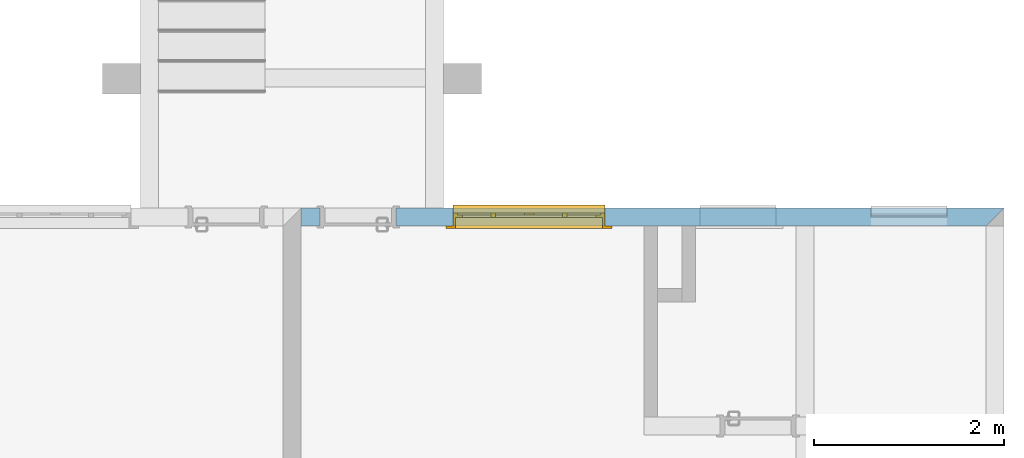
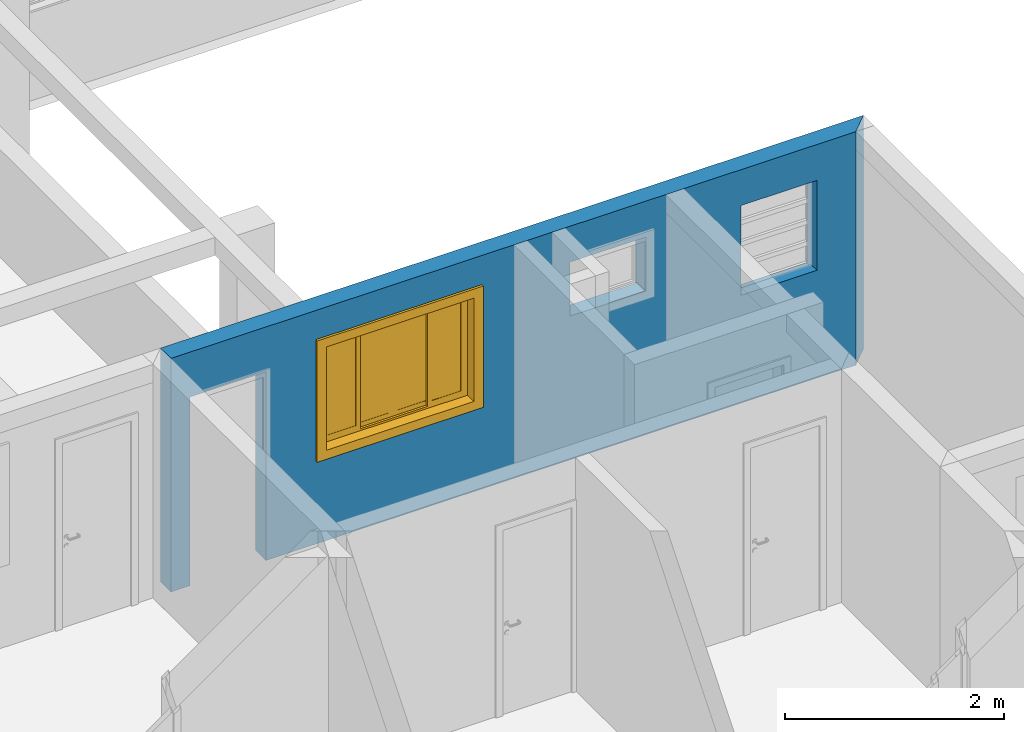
# One storey, part 21 of 47: 1 wall, 1 window, 4 openings.
"""IFC2X3 building model written with IfcOpenShell, lengths in millimetres."""

from ifc_helpers import new_model, entity, si_unit, converted_unit, derived_unit, money_unit, direction, frame, origin_with_axes, origin_2d_with_axis, place, context, subcontext, project, spatial, polyline, rectangle, outline, extrude, open_shell, faceted_brep, surface_model, source, transform, mapped, material, layer, layer_set, layer_usage, type_object, element, fill, save


model = new_model("IFC2X3")

# Units and contexts
model_context = context("Model", 3, precision=0.01, world=origin_with_axes(), true_north=direction((0.0, 1.0)))
body_context = subcontext(model_context, "Body", "Model", "MODEL_VIEW")
ifc_project = project(units=[si_unit("LENGTHUNIT", "METRE", prefix="MILLI"), si_unit("AREAUNIT", "SQUARE_METRE"), si_unit("VOLUMEUNIT", "CUBIC_METRE"), converted_unit("PLANEANGLEUNIT", "DEGREE", entity("IfcPlaneAngleMeasure", 0.0174532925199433), si_unit("PLANEANGLEUNIT", "RADIAN"), dimensions=[0, 0, 0, 0, 0, 0, 0]), money_unit("USD"), converted_unit("TIMEUNIT", "Year", entity("IfcTimeMeasure", 31557600.0), si_unit("TIMEUNIT", "SECOND"), dimensions=[0, 0, 1, 0, 0, 0, 0]), si_unit("MASSUNIT", "GRAM", prefix="KILO"), si_unit("THERMODYNAMICTEMPERATUREUNIT", "DEGREE_CELSIUS"), si_unit("LUMINOUSINTENSITYUNIT", "LUMEN"), si_unit("ENERGYUNIT", "JOULE", prefix="MEGA"), derived_unit("THERMALCONDUCTANCEUNIT", [(si_unit("POWERUNIT", "WATT"), 1), (si_unit("LENGTHUNIT", "METRE"), -1), (si_unit("THERMODYNAMICTEMPERATUREUNIT", "KELVIN"), -1)]), derived_unit("SPECIFICHEATCAPACITYUNIT", [(si_unit("ENERGYUNIT", "JOULE"), 1), (si_unit("MASSUNIT", "GRAM", prefix="KILO"), -1), (si_unit("THERMODYNAMICTEMPERATUREUNIT", "KELVIN"), -1)]), derived_unit("MASSDENSITYUNIT", [(si_unit("MASSUNIT", "GRAM", prefix="KILO"), 1), (si_unit("VOLUMEUNIT", "CUBIC_METRE"), -1)])], contexts=[model_context])

# Site, building, storey
site_placement = place(None, origin_with_axes())
site = spatial("IfcSite", under=ifc_project, at=site_placement, Name="Local", CompositionType="ELEMENT")
building_placement = place(site_placement, origin_with_axes())
building = spatial("IfcBuilding", under=site, at=building_placement, Name="Construção", CompositionType="ELEMENT")
storey_placement = place(building_placement, origin_with_axes())
storey = spatial("IfcBuildingStorey", under=building, at=storey_placement, Name="Pavimento Tipo", CompositionType="ELEMENT", Elevation=0.0)

# Wall, openings, window
ifc_material = material(Name="Concreto - Estrutural")
ifc_layer = layer(ifc_material, 190.0, ventilated="UNKNOWN")
ifc_layer_set = layer_set([ifc_layer], Name="Concreto - Estrutural 190")
ifc_layer_usage = layer_usage(ifc_layer_set, "AXIS2", "POSITIVE", -190.0)
wall_type = type_object("IfcWallType", Name="Concreto - Estrutural 190", PredefinedType="NOTDEFINED")
wall_placement = place(storey_placement, frame((1042.56699750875, 5186.981417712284, 0.0), z_axis=(0.0, 0.0, 1.0), x_axis=(1.0, 0.0, 0.0)))
wall = element("IfcWallStandardCase", 1, at=wall_placement, inside=storey, type_object=wall_type, material=ifc_layer_usage, Name="Apartamento 4 - Parede-003", context=body_context, shape_type="SweptSolid", body=[
    extrude(outline(polyline([(0.0, -190.0000000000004), (7209.999999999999, -190.0000000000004), (7399.999999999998, 0.0), (0.0, 0.0), (0.0, -190.0000000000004)])), origin_with_axes(), (0.0, 0.0, 1.0), 2600.0),
])
opening_1_placement = place(wall_placement, frame((2400.0, 0.0, 1000.0), z_axis=(0.0, 0.0, 1.0), x_axis=(1.0, 0.0, 0.0)))
opening_1 = element("IfcOpeningElement", 2, at=opening_1_placement, cuts=wall, Name="Apartamento 4 - J01", context=body_context, shape_type="SweptSolid", body=[
    extrude(rectangle(XDim=1600.0, YDim=1200.0, at=origin_2d_with_axis()), frame((0.0, -49.99999999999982, 600.0000000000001), z_axis=(0.0, 1.0, 0.0), x_axis=(1.0, 0.0, 0.0)), (0.0, 0.0, -1.0), 330.0),
    extrude(rectangle(XDim=1600.0, YDim=1200.0, at=origin_2d_with_axis()), frame((0.0, -49.99999999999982, 600.0000000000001), z_axis=(0.0, -1.0, 0.0), x_axis=(1.0, 0.0, 0.0)), (0.0, 0.0, -1.0), 240.0),
    extrude(rectangle(XDim=1750.0, YDim=1350.0, at=origin_2d_with_axis()), frame((0.0, -189.9999999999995, 600.0000000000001), z_axis=(0.0, 1.0, 0.0), x_axis=(1.0, 0.0, 0.0)), (0.0, 0.0, -1.0), 240.0),
])
opening_2_placement = place(wall_placement, frame((6399.999999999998, 0.0, 1200.0), z_axis=(0.0, 0.0, 1.0), x_axis=(1.0, 0.0, 0.0)))
element("IfcOpeningElement", 3, at=opening_2_placement, cuts=wall, Name="Apartamento 4 - J03", context=body_context, shape_type="SweptSolid", body=[
    extrude(rectangle(XDim=800.0000000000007, YDim=1000.0, at=origin_2d_with_axis()), frame((0.0, -49.99999999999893, 500.0), z_axis=(0.0, -1.0, 0.0), x_axis=(-1.0, 0.0, 0.0)), (0.0, 0.0, 1.0), 330.0),
    extrude(rectangle(XDim=800.0000000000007, YDim=1000.0, at=origin_2d_with_axis()), frame((0.0, -49.99999999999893, 500.0), z_axis=(0.0, 1.0, 0.0), x_axis=(-1.0, 0.0, 0.0)), (0.0, 0.0, 1.0), 240.0),
    extrude(rectangle(XDim=800.0000000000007, YDim=30.00000000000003, at=origin_2d_with_axis()), frame((0.0, -84.99999999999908, -14.9999999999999), z_axis=(0.0, 1.0, 0.0), x_axis=(-1.0, 0.0, 0.0)), (0.0, 0.0, 1.0), 225.0),
])
opening_3_placement = place(wall_placement, frame((600.0000000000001, 0.0, 0.0), z_axis=(0.0, 0.0, 1.0), x_axis=(1.0, 0.0, 0.0)))
element("IfcOpeningElement", 4, at=opening_3_placement, cuts=wall, Name="Apartamento 4 - P01", context=body_context, shape_type="SweptSolid", body=[
    extrude(rectangle(XDim=800.0, YDim=2100.0, at=origin_2d_with_axis()), frame((0.0, -190.0000000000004, 1050.0), z_axis=(0.0, 1.0, 0.0), x_axis=(-1.0, 0.0, 0.0)), (0.0, 0.0, 1.0), 570.0000000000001),
    extrude(rectangle(XDim=870.0000000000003, YDim=2135.0, at=origin_2d_with_axis()), frame((0.0, -190.0000000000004, 1067.5), z_axis=(0.0, 1.0, 0.0), x_axis=(-1.0, 0.0, 0.0)), (0.0, 0.0, -1.0), 190.0),
    extrude(rectangle(XDim=870.0000000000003, YDim=2135.0, at=origin_2d_with_axis()), frame((0.0, 0.0, 1067.5), z_axis=(0.0, -1.0, 0.0), x_axis=(-1.0, 0.0, 0.0)), (0.0, 0.0, -1.0), 190.0),
])
opening_4_placement = place(wall_placement, frame((4600.0, 0.0, 1600.0), z_axis=(0.0, 0.0, 1.0), x_axis=(1.0, 0.0, 0.0)))
element("IfcOpeningElement", 5, at=opening_4_placement, cuts=wall, Name="Apartamento 4 - J02", context=body_context, shape_type="SweptSolid", body=[
    extrude(rectangle(XDim=800.0000000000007, YDim=600.0000000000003, at=origin_2d_with_axis()), frame((0.0, -190.0000000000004, 300.0000000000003), z_axis=(0.0, -1.0, 0.0), x_axis=(-1.0, 0.0, 0.0)), (0.0, 0.0, -1.0), 570.0000000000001),
    extrude(rectangle(XDim=800.0000000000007, YDim=30.00000000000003, at=origin_2d_with_axis()), frame((0.0, -34.99999999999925, -14.9999999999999), z_axis=(0.0, 1.0, 0.0), x_axis=(-1.0, 0.0, 0.0)), (0.0, 0.0, 1.0), 225.0),
    extrude(rectangle(XDim=949.9999999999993, YDim=750.0, at=origin_2d_with_axis()), frame((0.0, -189.9999999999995, 300.0000000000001), z_axis=(0.0, -1.0, 0.0), x_axis=(-1.0, 0.0, 0.0)), (0.0, 0.0, 1.0), 190.0),
])
window_style = type_object("IfcWindowStyle", Name="Janela de Correr 4-Folhas 27", ConstructionType="NOTDEFINED", OperationType="USERDEFINED", ParameterTakesPrecedence=False, Sizeable=False)
shared_shape = source(origin_with_axes(), body_context, "Body", "SurfaceModel", [
    faceted_brep([(-800.0, 0.0, 5.0), (-800.0, 0.0, 30.0), (-800.0, 50.0, 27.37961103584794), (-800.0, 50.0, 5.000000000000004), (800.0, 0.0, 5.0), (800.0, 0.0, 30.0), (800.0, 50.0, 27.37961103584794), (800.0, 80.0, 25.8073776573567), (-800.0, 80.0, 25.8073776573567), (-800.0, 80.0, 5.000000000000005), (800.0, 80.0, 5.000000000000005), (800.0, 50.0, 5.000000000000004)], [[[0, 1, 2, 3]], [[4, 5, 1, 0]], [[1, 5, 6, 7, 8, 2]], [[3, 2, 8, 9]], [[0, 3, 9, 10, 11, 4]], [[11, 6, 5, 4]], [[10, 7, 6, 11]], [[9, 8, 7, 10]]]),
    faceted_brep([(-800.0, 0.0, 0.0), (-800.0, 0.0, 5.0), (-800.0, 50.0, 5.0), (-800.0, 50.0, 0.0), (800.0, 0.0, 0.0), (800.0, 0.0, 5.0), (800.0, 50.0, 5.0), (800.0, 50.0, 0.0)], [[[0, 1, 2, 3]], [[4, 5, 1, 0]], [[1, 5, 6, 2]], [[3, 2, 6, 7]], [[0, 3, 7, 4]], [[7, 6, 5, 4]]]),
    faceted_brep([(-800.0, -50.0, 0.0), (800.0, -50.0, 0.0), (800.0, -140.0, 0.0), (-800.0, -140.0, 0.0), (-800.0, -50.00000000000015, 1200.0), (800.0, -50.00000000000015, 1200.0), (-775.0, -50.0, 24.99999999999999), (775.0, -50.0, 24.99999999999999), (775.0, -50.00000000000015, 1175.0), (-775.0, -50.00000000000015, 1175.0), (800.0, -140.0000000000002, 1200.0), (-800.0, -140.0000000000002, 1200.0), (-775.0, -140.0, 24.99999999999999), (-775.0, -140.0000000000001, 1175.0), (775.0, -140.0000000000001, 1175.0), (775.0, -140.0, 24.99999999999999)], [[[0, 1, 2, 3]], [[0, 4, 5, 1], [6, 7, 8, 9]], [[1, 5, 10, 2]], [[3, 2, 10, 11], [12, 13, 14, 15]], [[4, 0, 3, 11]], [[5, 4, 11, 10]], [[7, 6, 12, 15]], [[8, 7, 15, 14]], [[9, 8, 14, 13]], [[6, 9, 13, 12]]]),
    faceted_brep([(-875.0, -165.0, -75.00000000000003), (-875.0, -140.0, -75.00000000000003), (-775.0, -140.0, 24.99999999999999), (-775.0, -165.0, 24.99999999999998), (-875.0, -165.0000000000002, 1275.0), (-875.0, -140.0000000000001, 1275.0), (-775.0, -140.0000000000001, 1175.0), (-775.0, -165.0000000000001, 1175.0)], [[[0, 1, 2, 3]], [[4, 5, 1, 0]], [[1, 5, 6, 2]], [[3, 2, 6, 7]], [[0, 3, 7, 4]], [[7, 6, 5, 4]]]),
    faceted_brep([(875.0, -165.0000000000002, 1275.0), (875.0, -140.0000000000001, 1275.0), (775.0, -140.0000000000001, 1175.0), (775.0, -165.0000000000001, 1175.0), (875.0, -165.0, -75.00000000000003), (875.0, -140.0, -75.00000000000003), (775.0, -140.0, 24.99999999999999), (775.0, -165.0, 24.99999999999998)], [[[0, 1, 2, 3]], [[4, 5, 1, 0]], [[1, 5, 6, 2]], [[3, 2, 6, 7]], [[0, 3, 7, 4]], [[7, 6, 5, 4]]]),
    faceted_brep([(875.0, -165.0, -75.00000000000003), (875.0, -140.0, -75.00000000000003), (775.0, -140.0, 24.99999999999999), (775.0, -165.0, 24.99999999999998), (-875.0, -165.0, -75.00000000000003), (-875.0, -140.0, -75.00000000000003), (-775.0, -140.0, 24.99999999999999), (-775.0, -165.0, 24.99999999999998)], [[[0, 1, 2, 3]], [[4, 5, 1, 0]], [[1, 5, 6, 2]], [[3, 2, 6, 7]], [[0, 3, 7, 4]], [[7, 6, 5, 4]]]),
    faceted_brep([(-875.0, -165.0000000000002, 1275.0), (-875.0, -140.0000000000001, 1275.0), (-775.0, -140.0000000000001, 1175.0), (-775.0, -165.0000000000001, 1175.0), (875.0, -165.0000000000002, 1275.0), (875.0, -140.0000000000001, 1275.0), (775.0, -140.0000000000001, 1175.0), (775.0, -165.0000000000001, 1175.0)], [[[0, 1, 2, 3]], [[4, 5, 1, 0]], [[1, 5, 6, 2]], [[3, 2, 6, 7]], [[0, 3, 7, 4]], [[7, 6, 5, 4]]]),
    faceted_brep([(-753.0, -50.00000000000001, 47.0), (-753.0, 0.0, 47.00000000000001), (-753.0, 0.0, 1153.0), (-753.0, -50.00000000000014, 1153.0), (-800.0, -50.00000000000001, 47.0), (-800.0, 0.0, 47.00000000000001), (-800.0, 0.0, 1153.0), (-800.0, -50.00000000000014, 1153.0)], [[[0, 1, 2, 3]], [[4, 5, 1, 0]], [[1, 5, 6, 2]], [[3, 2, 6, 7]], [[0, 3, 7, 4]], [[7, 6, 5, 4]]]),
    faceted_brep([(800.0, -50.00000000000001, 47.0), (800.0, 0.0, 47.00000000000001), (800.0, 0.0, 1153.0), (800.0, -50.00000000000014, 1153.0), (753.0, -50.00000000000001, 47.0), (753.0, 0.0, 47.00000000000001), (753.0, 0.0, 1153.0), (753.0, -50.00000000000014, 1153.0)], [[[0, 1, 2, 3]], [[4, 5, 1, 0]], [[1, 5, 6, 2]], [[3, 2, 6, 7]], [[0, 3, 7, 4]], [[7, 6, 5, 4]]]),
    faceted_brep([(800.0, -50.00000000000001, 47.0), (800.0, 0.0, 47.00000000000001), (753.0, 0.0, 47.00000000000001), (753.0, -50.00000000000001, 47.0), (800.0, -50.0, 0.0), (800.0, 0.0, 0.0), (-800.0, 0.0, 0.0), (-800.0, 0.0, 47.00000000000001), (-753.0, 0.0, 47.00000000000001), (-753.0, -50.00000000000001, 47.0), (-800.0, -50.00000000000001, 47.0), (-800.0, -50.0, 0.0)], [[[0, 1, 2, 3]], [[4, 5, 1, 0]], [[1, 5, 6, 7, 8, 2]], [[3, 2, 8, 9]], [[0, 3, 9, 10, 11, 4]], [[11, 6, 5, 4]], [[10, 7, 6, 11]], [[9, 8, 7, 10]]]),
    faceted_brep([(800.0, -50.00000000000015, 1200.0), (800.0, 0.0, 1200.0), (-800.0, 0.0, 1200.0), (-800.0, -50.00000000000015, 1200.0), (800.0, -50.00000000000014, 1153.0), (800.0, 0.0, 1153.0), (753.0, 0.0, 1153.0), (376.5000000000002, 0.0, 1153.0), (0.0, 0.0, 1153.0), (-376.4999999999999, 0.0, 1153.0), (-753.0, 0.0, 1153.0), (-800.0, 0.0, 1153.0), (-800.0, -50.00000000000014, 1153.0), (-753.0, -50.00000000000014, 1153.0), (-376.4999999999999, -50.00000000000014, 1153.0), (0.0, -50.00000000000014, 1153.0), (376.5000000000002, -50.00000000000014, 1153.0), (753.0, -50.00000000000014, 1153.0)], [[[0, 1, 2, 3]], [[4, 5, 1, 0]], [[1, 5, 6, 7, 8, 9, 10, 11, 2]], [[3, 2, 11, 12]], [[0, 3, 12, 13, 14, 15, 16, 17, 4]], [[17, 6, 5, 4]], [[16, 7, 6, 17]], [[15, 8, 7, 16]], [[14, 9, 8, 15]], [[13, 10, 9, 14]], [[12, 11, 10, 13]]]),
    faceted_brep([(-703.0, -50.00000000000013, 1103.0), (-703.0, -25.00000000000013, 1103.0), (-752.9999999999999, -25.00000000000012, 1103.0), (-752.9999999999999, -50.00000000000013, 1103.0), (-703.0, -50.00000000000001, 97.0), (-703.0, -25.0, 97.0), (-752.9999999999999, -25.0, 97.0), (-752.9999999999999, -50.0, 97.0)], [[[0, 1, 2, 3]], [[4, 5, 1, 0]], [[1, 5, 6, 2]], [[3, 2, 6, 7]], [[0, 3, 7, 4]], [[7, 6, 5, 4]]]),
    faceted_brep([(-401.4999999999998, -50.00000000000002, 97.0), (-401.4999999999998, -25.00000000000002, 97.0), (-351.4999999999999, -25.00000000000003, 97.0), (-351.4999999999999, -50.00000000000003, 97.0), (-401.4999999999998, -50.00000000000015, 1103.0), (-401.4999999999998, -25.00000000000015, 1103.0), (-351.4999999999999, -25.00000000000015, 1103.0), (-351.4999999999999, -50.00000000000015, 1103.0)], [[[0, 1, 2, 3]], [[4, 5, 1, 0]], [[1, 5, 6, 2]], [[3, 2, 6, 7]], [[0, 3, 7, 4]], [[7, 6, 5, 4]]]),
    faceted_brep([(-351.4999999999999, -50.00000000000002, 47.0), (-351.4999999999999, -25.00000000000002, 47.0), (-351.4999999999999, -25.00000000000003, 97.0), (-351.4999999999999, -50.00000000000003, 97.0), (-752.9999999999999, -49.99999999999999, 47.0), (-752.9999999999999, -24.99999999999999, 47.0), (-752.9999999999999, -25.0, 97.0), (-703.0, -25.0, 97.0), (-401.4999999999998, -25.00000000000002, 97.0), (-401.4999999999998, -50.00000000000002, 97.0), (-703.0, -50.00000000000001, 97.0), (-752.9999999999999, -50.0, 97.0)], [[[0, 1, 2, 3]], [[4, 5, 1, 0]], [[1, 5, 6, 7, 8, 2]], [[3, 2, 8, 9]], [[0, 3, 9, 10, 11, 4]], [[11, 6, 5, 4]], [[10, 7, 6, 11]], [[9, 8, 7, 10]]]),
    faceted_brep([(-752.9999999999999, -50.00000000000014, 1153.0), (-752.9999999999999, -25.00000000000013, 1153.0), (-752.9999999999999, -25.00000000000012, 1103.0), (-752.9999999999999, -50.00000000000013, 1103.0), (-351.4999999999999, -50.00000000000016, 1153.0), (-351.4999999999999, -25.00000000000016, 1153.0), (-351.4999999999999, -25.00000000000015, 1103.0), (-401.4999999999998, -25.00000000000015, 1103.0), (-703.0, -25.00000000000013, 1103.0), (-703.0, -50.00000000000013, 1103.0), (-401.4999999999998, -50.00000000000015, 1103.0), (-351.4999999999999, -50.00000000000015, 1103.0)], [[[0, 1, 2, 3]], [[4, 5, 1, 0]], [[1, 5, 6, 7, 8, 2]], [[3, 2, 8, 9]], [[0, 3, 9, 10, 11, 4]], [[11, 6, 5, 4]], [[10, 7, 6, 11]], [[9, 8, 7, 10]]]),
    surface_model("IfcShellBasedSurfaceModel", [(-703.0, -47.50000000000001, 97.0), (-401.4999999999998, -47.50000000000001, 97.0), (-401.4999999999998, -47.50000000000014, 1103.0), (-703.0, -47.50000000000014, 1103.0)], [open_shell([[[0, 1, 2, 3]]])]),
    surface_model("IfcShellBasedSurfaceModel", [(-703.0, -27.50000000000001, 97.0), (-703.0, -27.50000000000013, 1103.0), (-401.4999999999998, -27.50000000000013, 1103.0), (-401.4999999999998, -27.50000000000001, 97.0)], [open_shell([[[0, 1, 2, 3]]])]),
    faceted_brep([(-351.4999999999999, -25.00000000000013, 1103.0), (-351.4999999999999, 0.0, 1103.0), (-401.4999999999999, 0.0, 1103.0), (-401.4999999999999, -25.00000000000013, 1103.0), (-351.4999999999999, -25.0, 97.0), (-351.4999999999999, 0.0, 97.0), (-401.4999999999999, 0.0, 97.0), (-401.4999999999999, -25.0, 97.0)], [[[0, 1, 2, 3]], [[4, 5, 1, 0]], [[1, 5, 6, 2]], [[3, 2, 6, 7]], [[0, 3, 7, 4]], [[7, 6, 5, 4]]]),
    faceted_brep([(-49.99999999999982, -25.00000000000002, 97.0), (-49.99999999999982, 0.0, 97.0), (0.0, 0.0, 97.0), (0.0, -25.00000000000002, 97.0), (-49.99999999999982, -25.00000000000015, 1103.0), (-49.99999999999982, 0.0, 1103.0), (0.0, 0.0, 1103.0), (0.0, -25.00000000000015, 1103.0)], [[[0, 1, 2, 3]], [[4, 5, 1, 0]], [[1, 5, 6, 2]], [[3, 2, 6, 7]], [[0, 3, 7, 4]], [[7, 6, 5, 4]]]),
    faceted_brep([(0.0, -25.00000000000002, 47.0), (0.0, 0.0, 47.0), (0.0, 0.0, 97.0), (0.0, -25.00000000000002, 97.0), (-401.4999999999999, -24.99999999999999, 47.0), (-401.4999999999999, 0.0, 47.0), (-401.4999999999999, 0.0, 97.0), (-351.4999999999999, 0.0, 97.0), (-49.99999999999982, 0.0, 97.0), (-49.99999999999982, -25.00000000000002, 97.0), (-351.4999999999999, -25.0, 97.0), (-401.4999999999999, -25.0, 97.0)], [[[0, 1, 2, 3]], [[4, 5, 1, 0]], [[1, 5, 6, 7, 8, 2]], [[3, 2, 8, 9]], [[0, 3, 9, 10, 11, 4]], [[11, 6, 5, 4]], [[10, 7, 6, 11]], [[9, 8, 7, 10]]]),
    faceted_brep([(-401.4999999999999, -25.00000000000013, 1153.0), (-401.4999999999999, 0.0, 1153.0), (-401.4999999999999, 0.0, 1103.0), (-401.4999999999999, -25.00000000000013, 1103.0), (0.0, -25.00000000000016, 1153.0), (0.0, 0.0, 1153.0), (0.0, 0.0, 1103.0), (-49.99999999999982, 0.0, 1103.0), (-351.4999999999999, 0.0, 1103.0), (-351.4999999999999, -25.00000000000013, 1103.0), (-49.99999999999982, -25.00000000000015, 1103.0), (0.0, -25.00000000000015, 1103.0)], [[[0, 1, 2, 3]], [[4, 5, 1, 0]], [[1, 5, 6, 7, 8, 2]], [[3, 2, 8, 9]], [[0, 3, 9, 10, 11, 4]], [[11, 6, 5, 4]], [[10, 7, 6, 11]], [[9, 8, 7, 10]]]),
    surface_model("IfcShellBasedSurfaceModel", [(-351.4999999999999, -22.50000000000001, 97.0), (-49.99999999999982, -22.50000000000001, 97.0), (-49.99999999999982, -22.50000000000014, 1103.0), (-351.4999999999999, -22.50000000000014, 1103.0)], [open_shell([[[0, 1, 2, 3]]])]),
    surface_model("IfcShellBasedSurfaceModel", [(-351.4999999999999, -2.500000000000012, 97.0), (-351.4999999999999, -2.500000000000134, 1103.0), (-49.99999999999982, -2.500000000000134, 1103.0), (-49.99999999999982, -2.500000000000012, 97.0)], [open_shell([[[0, 1, 2, 3]]])]),
    faceted_brep([(50.00000000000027, -25.00000000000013, 1103.0), (50.00000000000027, 0.0, 1103.0), (0.0, 0.0, 1103.0), (0.0, -25.00000000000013, 1103.0), (50.00000000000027, -25.0, 97.0), (50.00000000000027, 0.0, 97.0), (0.0, 0.0, 97.0), (0.0, -25.0, 97.0)], [[[0, 1, 2, 3]], [[4, 5, 1, 0]], [[1, 5, 6, 2]], [[3, 2, 6, 7]], [[0, 3, 7, 4]], [[7, 6, 5, 4]]]),
    faceted_brep([(351.5000000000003, -25.00000000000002, 97.0), (351.5000000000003, 0.0, 97.0), (401.5000000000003, 0.0, 97.0), (401.5000000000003, -25.00000000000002, 97.0), (351.5000000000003, -25.00000000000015, 1103.0), (351.5000000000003, 0.0, 1103.0), (401.5000000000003, 0.0, 1103.0), (401.5000000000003, -25.00000000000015, 1103.0)], [[[0, 1, 2, 3]], [[4, 5, 1, 0]], [[1, 5, 6, 2]], [[3, 2, 6, 7]], [[0, 3, 7, 4]], [[7, 6, 5, 4]]]),
    faceted_brep([(401.5000000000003, -25.00000000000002, 47.0), (401.5000000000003, 0.0, 47.0), (401.5000000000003, 0.0, 97.0), (401.5000000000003, -25.00000000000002, 97.0), (0.0, -24.99999999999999, 47.0), (0.0, 0.0, 47.0), (0.0, 0.0, 97.0), (50.00000000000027, 0.0, 97.0), (351.5000000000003, 0.0, 97.0), (351.5000000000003, -25.00000000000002, 97.0), (50.00000000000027, -25.0, 97.0), (0.0, -25.0, 97.0)], [[[0, 1, 2, 3]], [[4, 5, 1, 0]], [[1, 5, 6, 7, 8, 2]], [[3, 2, 8, 9]], [[0, 3, 9, 10, 11, 4]], [[11, 6, 5, 4]], [[10, 7, 6, 11]], [[9, 8, 7, 10]]]),
    faceted_brep([(0.0, -25.00000000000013, 1153.0), (0.0, 0.0, 1153.0), (0.0, 0.0, 1103.0), (0.0, -25.00000000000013, 1103.0), (401.5000000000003, -25.00000000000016, 1153.0), (401.5000000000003, 0.0, 1153.0), (401.5000000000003, 0.0, 1103.0), (351.5000000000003, 0.0, 1103.0), (50.00000000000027, 0.0, 1103.0), (50.00000000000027, -25.00000000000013, 1103.0), (351.5000000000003, -25.00000000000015, 1103.0), (401.5000000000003, -25.00000000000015, 1103.0)], [[[0, 1, 2, 3]], [[4, 5, 1, 0]], [[1, 5, 6, 7, 8, 2]], [[3, 2, 8, 9]], [[0, 3, 9, 10, 11, 4]], [[11, 6, 5, 4]], [[10, 7, 6, 11]], [[9, 8, 7, 10]]]),
    surface_model("IfcShellBasedSurfaceModel", [(50.00000000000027, -22.50000000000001, 97.0), (351.5000000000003, -22.50000000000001, 97.0), (351.5000000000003, -22.50000000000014, 1103.0), (50.00000000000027, -22.50000000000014, 1103.0)], [open_shell([[[0, 1, 2, 3]]])]),
    surface_model("IfcShellBasedSurfaceModel", [(50.00000000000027, -2.500000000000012, 97.0), (50.00000000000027, -2.500000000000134, 1103.0), (351.5000000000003, -2.500000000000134, 1103.0), (351.5000000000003, -2.500000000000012, 97.0)], [open_shell([[[0, 1, 2, 3]]])]),
    faceted_brep([(401.5000000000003, -50.00000000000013, 1103.0), (401.5000000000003, -25.00000000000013, 1103.0), (351.5000000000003, -25.00000000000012, 1103.0), (351.5000000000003, -50.00000000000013, 1103.0), (401.5000000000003, -50.00000000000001, 97.0), (401.5000000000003, -25.0, 97.0), (351.5000000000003, -25.0, 97.0), (351.5000000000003, -50.0, 97.0)], [[[0, 1, 2, 3]], [[4, 5, 1, 0]], [[1, 5, 6, 2]], [[3, 2, 6, 7]], [[0, 3, 7, 4]], [[7, 6, 5, 4]]]),
    faceted_brep([(703.0000000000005, -50.00000000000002, 97.0), (703.0000000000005, -25.00000000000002, 97.0), (753.0000000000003, -25.00000000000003, 97.0), (753.0000000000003, -50.00000000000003, 97.0), (703.0000000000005, -50.00000000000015, 1103.0), (703.0000000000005, -25.00000000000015, 1103.0), (753.0000000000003, -25.00000000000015, 1103.0), (753.0000000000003, -50.00000000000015, 1103.0)], [[[0, 1, 2, 3]], [[4, 5, 1, 0]], [[1, 5, 6, 2]], [[3, 2, 6, 7]], [[0, 3, 7, 4]], [[7, 6, 5, 4]]]),
    faceted_brep([(753.0000000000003, -50.00000000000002, 47.0), (753.0000000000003, -25.00000000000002, 47.0), (753.0000000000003, -25.00000000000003, 97.0), (753.0000000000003, -50.00000000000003, 97.0), (351.5000000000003, -49.99999999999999, 47.0), (351.5000000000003, -24.99999999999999, 47.0), (351.5000000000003, -25.0, 97.0), (401.5000000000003, -25.0, 97.0), (703.0000000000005, -25.00000000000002, 97.0), (703.0000000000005, -50.00000000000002, 97.0), (401.5000000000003, -50.00000000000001, 97.0), (351.5000000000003, -50.0, 97.0)], [[[0, 1, 2, 3]], [[4, 5, 1, 0]], [[1, 5, 6, 7, 8, 2]], [[3, 2, 8, 9]], [[0, 3, 9, 10, 11, 4]], [[11, 6, 5, 4]], [[10, 7, 6, 11]], [[9, 8, 7, 10]]]),
    faceted_brep([(351.5000000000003, -50.00000000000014, 1153.0), (351.5000000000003, -25.00000000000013, 1153.0), (351.5000000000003, -25.00000000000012, 1103.0), (351.5000000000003, -50.00000000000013, 1103.0), (753.0000000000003, -50.00000000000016, 1153.0), (753.0000000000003, -25.00000000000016, 1153.0), (753.0000000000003, -25.00000000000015, 1103.0), (703.0000000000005, -25.00000000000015, 1103.0), (401.5000000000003, -25.00000000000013, 1103.0), (401.5000000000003, -50.00000000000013, 1103.0), (703.0000000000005, -50.00000000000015, 1103.0), (753.0000000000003, -50.00000000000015, 1103.0)], [[[0, 1, 2, 3]], [[4, 5, 1, 0]], [[1, 5, 6, 7, 8, 2]], [[3, 2, 8, 9]], [[0, 3, 9, 10, 11, 4]], [[11, 6, 5, 4]], [[10, 7, 6, 11]], [[9, 8, 7, 10]]]),
    surface_model("IfcShellBasedSurfaceModel", [(401.5000000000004, -47.50000000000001, 97.0), (703.0000000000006, -47.50000000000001, 97.0), (703.0000000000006, -47.50000000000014, 1103.0), (401.5000000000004, -47.50000000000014, 1103.0)], [open_shell([[[0, 1, 2, 3]]])]),
    surface_model("IfcShellBasedSurfaceModel", [(401.5000000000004, -27.50000000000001, 97.0), (401.5000000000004, -27.50000000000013, 1103.0), (703.0000000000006, -27.50000000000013, 1103.0), (703.0000000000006, -27.50000000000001, 97.0)], [open_shell([[[0, 1, 2, 3]]])]),
])
window_placement = place(opening_1_placement, frame((-799.9999999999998, 0.0, 0.0), z_axis=(0.0, 0.0, 1.0), x_axis=(1.0, 0.0, 0.0)))
window = element("IfcWindow", 6, at=window_placement, inside=storey, type_object=window_style, Name="Apartamento 4 - J01", ObjectType="WINDOW", OverallHeight=1200.0, OverallWidth=1600.0, context=body_context, shape_type="MappedRepresentation", body=[
    mapped(shared_shape, transform((799.9999999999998, -49.99999999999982, 0.0))),
])
fill(opening_1, window)

save(model, "model.ifc")
